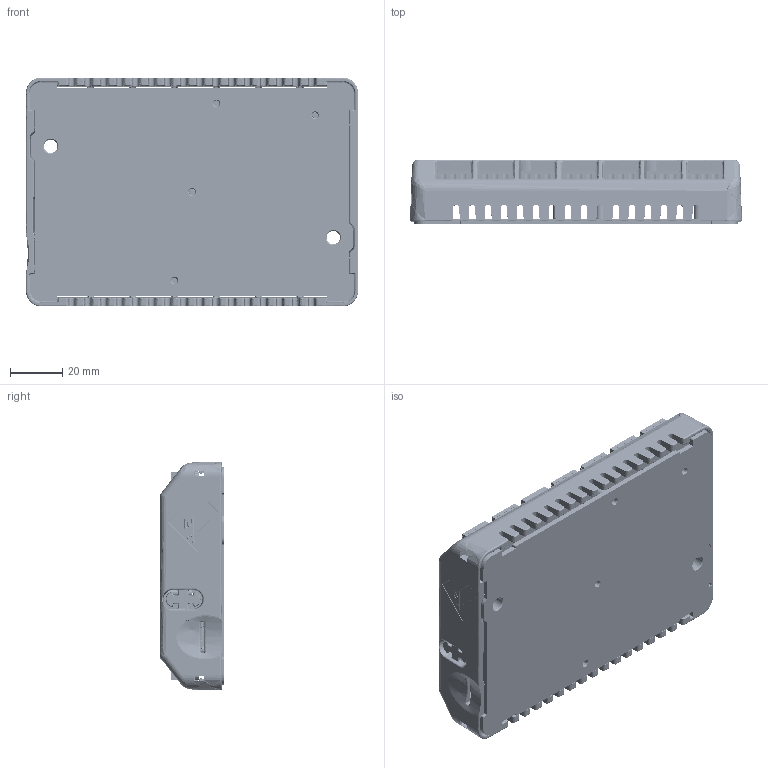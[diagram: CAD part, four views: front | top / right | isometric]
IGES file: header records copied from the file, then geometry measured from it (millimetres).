
Start section: SolidWorks IGES file using analytic representation for surfaces
Global section: file name: C:\TeknicPDM\Drives\ClearCore & CCIO\Customer Drawings and Files\Models for Making Customer Models\CLNK-4-13.igs; native system: SolidWorks 2020; preprocessor: SolidWorks 2020; author: mike_berezny; date: 260116.161519; units: inch
Bounding box: 126.86 x 24.52 x 87.49 mm (x, y, z)
Surface area: 117403.2 mm2 (no closed solid volume)
Topology: 0 solids, 0 shells, 15403 faces, 112297 edges, 112077 vertices
Faces by surface type: bspline 11525, revolution 3878
